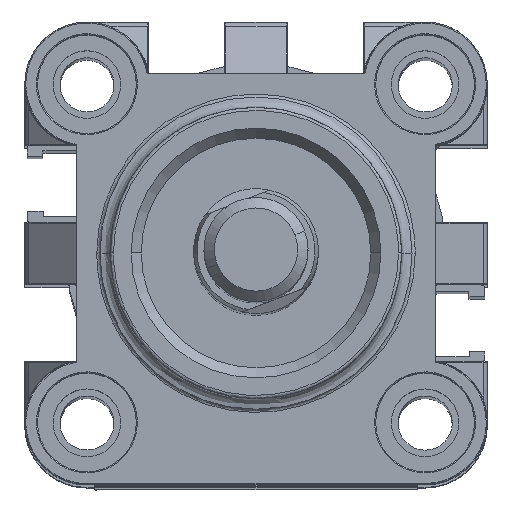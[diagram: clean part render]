
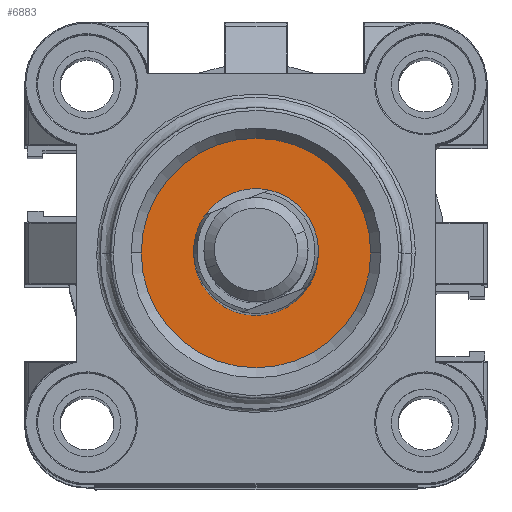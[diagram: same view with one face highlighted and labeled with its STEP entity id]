
A CAD part, top view. The second image highlights one B-rep face of the part: STEP entity #6883.
In plain terms, the highlighted planar face has unit normal (0, 0, 1).
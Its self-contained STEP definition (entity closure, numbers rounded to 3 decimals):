
#949 = CARTESIAN_POINT ( 'NONE',  ( 17.25, -17.25, 40.8 ) ) ;
#1063 = CIRCLE ( 'NONE', #11306, 6. ) ;
#2526 = DIRECTION ( 'NONE',  ( 1., 0., 0. ) ) ;
#2657 = CIRCLE ( 'NONE', #4658, 6. ) ;
#2961 = EDGE_CURVE ( 'NONE', #13740, #10369, #19520, .T. ) ;
#4005 = CARTESIAN_POINT ( 'NONE',  ( 6.222, -17.25, 40.8 ) ) ;
#4385 = CARTESIAN_POINT ( 'NONE',  ( 23.25, -17.25, 40.8 ) ) ;
#4425 = CARTESIAN_POINT ( 'NONE',  ( 17.25, -17.25, 40.8 ) ) ;
#4529 = ORIENTED_EDGE ( 'NONE', *, *, #6902, .F. ) ;
#4658 = AXIS2_PLACEMENT_3D ( 'NONE', #7829, #7808, #12979 ) ;
#4976 = DIRECTION ( 'NONE',  ( 0., 0., 1. ) ) ;
#5253 = AXIS2_PLACEMENT_3D ( 'NONE', #4425, #4976, #5597 ) ;
#5597 = DIRECTION ( 'NONE',  ( 1., 0., 0. ) ) ;
#5730 = AXIS2_PLACEMENT_3D ( 'NONE', #19556, #8603, #8547 ) ;
#6359 = ORIENTED_EDGE ( 'NONE', *, *, #12529, .F. ) ;
#6700 = ORIENTED_EDGE ( 'NONE', *, *, #13235, .T. ) ;
#6883 = ADVANCED_FACE ( 'NONE', ( #15531, #6914 ), #13493, .T. ) ;
#6902 = EDGE_CURVE ( 'NONE', #9707, #19580, #2657, .T. ) ;
#6914 = FACE_BOUND ( 'NONE', #10858, .T. ) ;
#7808 = DIRECTION ( 'NONE',  ( 0., 0., 1. ) ) ;
#7829 = CARTESIAN_POINT ( 'NONE',  ( 17.25, -17.25, 40.8 ) ) ;
#8547 = DIRECTION ( 'NONE',  ( 1., 0., 0. ) ) ;
#8573 = DIRECTION ( 'NONE',  ( 0., 0., 1. ) ) ;
#8603 = DIRECTION ( 'NONE',  ( 0., 0., 1. ) ) ;
#9240 = ORIENTED_EDGE ( 'NONE', *, *, #2961, .T. ) ;
#9707 = VERTEX_POINT ( 'NONE', #15630 ) ;
#10369 = VERTEX_POINT ( 'NONE', #4005 ) ;
#10858 = EDGE_LOOP ( 'NONE', ( #6359, #4529 ) ) ;
#11306 = AXIS2_PLACEMENT_3D ( 'NONE', #18310, #8573, #19950 ) ;
#12136 = DIRECTION ( 'NONE',  ( 0., 0., 1. ) ) ;
#12312 = CIRCLE ( 'NONE', #18123, 11.028 ) ;
#12529 = EDGE_CURVE ( 'NONE', #19580, #9707, #1063, .T. ) ;
#12979 = DIRECTION ( 'NONE',  ( 1., 0., 0. ) ) ;
#13235 = EDGE_CURVE ( 'NONE', #10369, #13740, #12312, .T. ) ;
#13493 = PLANE ( 'NONE',  #5730 ) ;
#13740 = VERTEX_POINT ( 'NONE', #15982 ) ;
#15531 = FACE_OUTER_BOUND ( 'NONE', #20422, .T. ) ;
#15630 = CARTESIAN_POINT ( 'NONE',  ( 11.25, -17.25, 40.8 ) ) ;
#15982 = CARTESIAN_POINT ( 'NONE',  ( 28.278, -17.25, 40.8 ) ) ;
#18123 = AXIS2_PLACEMENT_3D ( 'NONE', #949, #12136, #2526 ) ;
#18310 = CARTESIAN_POINT ( 'NONE',  ( 17.25, -17.25, 40.8 ) ) ;
#19520 = CIRCLE ( 'NONE', #5253, 11.028 ) ;
#19556 = CARTESIAN_POINT ( 'NONE',  ( 17.25, -17.25, 40.8 ) ) ;
#19580 = VERTEX_POINT ( 'NONE', #4385 ) ;
#19950 = DIRECTION ( 'NONE',  ( 1., 0., 0. ) ) ;
#20422 = EDGE_LOOP ( 'NONE', ( #9240, #6700 ) ) ;
